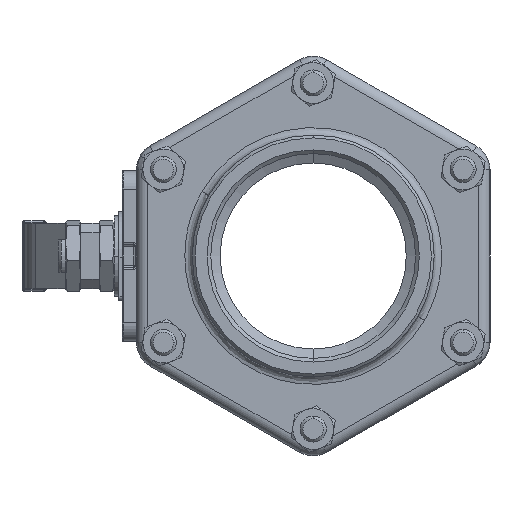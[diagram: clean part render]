
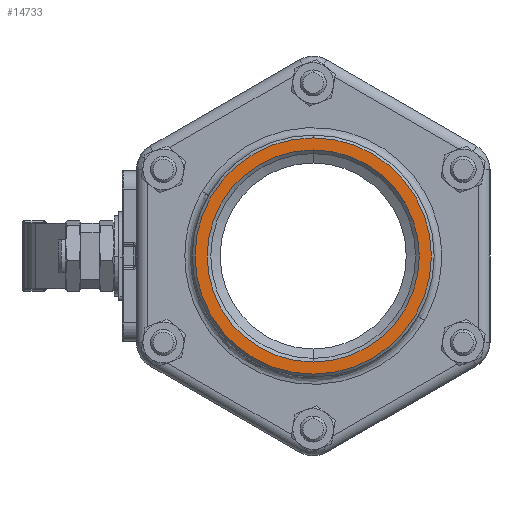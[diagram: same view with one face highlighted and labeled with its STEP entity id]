
A CAD part, left-side view. The second image highlights one B-rep face of the part: STEP entity #14733.
In plain terms, the highlighted planar face has unit normal (-1, 0, 0).
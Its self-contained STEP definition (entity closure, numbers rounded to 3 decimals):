
#14733 = ADVANCED_FACE ( 'NONE', ( #50151, #50146 ), #50145, .F. ) ;
#14736 = EDGE_LOOP ( 'NONE', ( #14738, #14742 ) ) ;
#14738 = ORIENTED_EDGE ( 'NONE', *, *, #14740, .F. ) ;
#14740 = EDGE_CURVE ( 'NONE', #149457, #149452, #50139, .T. ) ;
#14742 = ORIENTED_EDGE ( 'NONE', *, *, #149456, .F. ) ;
#14744 = EDGE_LOOP ( 'NONE', ( #14745, #14746 ) ) ;
#14745 = ORIENTED_EDGE ( 'NONE', *, *, #149523, .F. ) ;
#14746 = ORIENTED_EDGE ( 'NONE', *, *, #14758, .F. ) ;
#14758 = EDGE_CURVE ( 'NONE', #149528, #149526, #50188, .T. ) ;
#50136 = DIRECTION ( 'NONE',  ( 0., 0., 1. ) ) ;
#50137 = DIRECTION ( 'NONE',  ( -1., 0., 0. ) ) ;
#50138 = AXIS2_PLACEMENT_3D ( 'NONE', #50143, #50137, #50136 ) ;
#50139 = CIRCLE ( 'NONE', #50138, 57. ) ;
#50140 = DIRECTION ( 'NONE',  ( 0., 0.5, -0.866 ) ) ;
#50141 = DIRECTION ( 'NONE',  ( 1., 0., 0. ) ) ;
#50142 = AXIS2_PLACEMENT_3D ( 'NONE', #50144, #50141, #50140 ) ;
#50143 = CARTESIAN_POINT ( 'NONE',  ( -108.35, 0., 0. ) ) ;
#50144 = CARTESIAN_POINT ( 'NONE',  ( -108.35, -87.784, 23.522 ) ) ;
#50145 = PLANE ( 'NONE',  #50142 ) ;
#50146 = FACE_OUTER_BOUND ( 'NONE', #14744, .T. ) ;
#50151 = FACE_BOUND ( 'NONE', #14736, .T. ) ;
#50184 = DIRECTION ( 'NONE',  ( 0., 0., -1. ) ) ;
#50185 = DIRECTION ( 'NONE',  ( 1., 0., 0. ) ) ;
#50186 = CARTESIAN_POINT ( 'NONE',  ( -108.35, 0., 0. ) ) ;
#50187 = AXIS2_PLACEMENT_3D ( 'NONE', #50186, #50185, #50184 ) ;
#50188 = CIRCLE ( 'NONE', #50187, 63.5 ) ;
#117186 = CARTESIAN_POINT ( 'NONE',  ( -108.35, 0., 57. ) ) ;
#117188 = DIRECTION ( 'NONE',  ( 0., 0., 1. ) ) ;
#117190 = DIRECTION ( 'NONE',  ( -1., 0., 0. ) ) ;
#117192 = CARTESIAN_POINT ( 'NONE',  ( -108.35, 0., 0. ) ) ;
#117193 = AXIS2_PLACEMENT_3D ( 'NONE', #117192, #117190, #117188 ) ;
#117195 = CIRCLE ( 'NONE', #117193, 57. ) ;
#117203 = CARTESIAN_POINT ( 'NONE',  ( -108.35, 0., -57. ) ) ;
#117316 = CARTESIAN_POINT ( 'NONE',  ( -108.35, 0., 63.5 ) ) ;
#117318 = CARTESIAN_POINT ( 'NONE',  ( -108.35, 0., -63.5 ) ) ;
#117320 = DIRECTION ( 'NONE',  ( 0., 0., -1. ) ) ;
#117322 = DIRECTION ( 'NONE',  ( 1., 0., 0. ) ) ;
#117324 = CARTESIAN_POINT ( 'NONE',  ( -108.35, 0., 0. ) ) ;
#117326 = AXIS2_PLACEMENT_3D ( 'NONE', #117324, #117322, #117320 ) ;
#117327 = CIRCLE ( 'NONE', #117326, 63.5 ) ;
#149452 = VERTEX_POINT ( 'NONE', #117203 ) ;
#149456 = EDGE_CURVE ( 'NONE', #149452, #149457, #117195, .T. ) ;
#149457 = VERTEX_POINT ( 'NONE', #117186 ) ;
#149523 = EDGE_CURVE ( 'NONE', #149526, #149528, #117327, .T. ) ;
#149526 = VERTEX_POINT ( 'NONE', #117318 ) ;
#149528 = VERTEX_POINT ( 'NONE', #117316 ) ;
